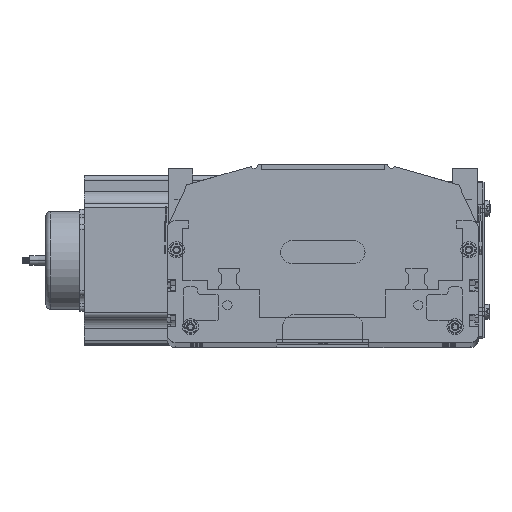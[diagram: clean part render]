
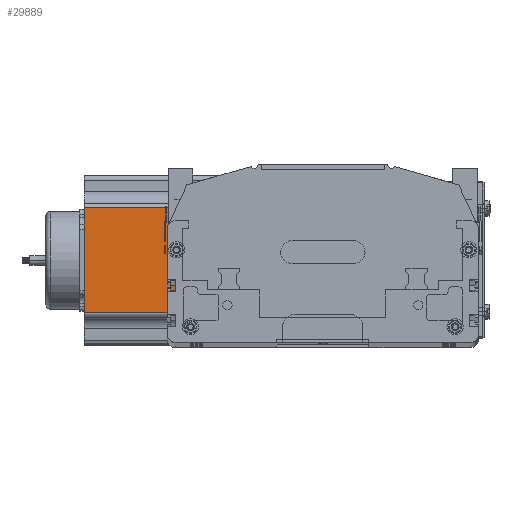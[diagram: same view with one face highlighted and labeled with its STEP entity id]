
A CAD part, top view. The second image highlights one B-rep face of the part: STEP entity #29889.
In plain terms, the highlighted planar face has unit normal (0, 0, 1) as drawn and (0, -1, 0) by its records, which use the part's own axes.
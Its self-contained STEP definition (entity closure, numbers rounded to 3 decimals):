
#29889 = ADVANCED_FACE ( 'NONE', ( #89073 ), #89056, .F. ) ;
#29890 = EDGE_CURVE ( 'NONE', #30476, #30482, #89037, .T. ) ;
#30330 = EDGE_LOOP ( 'NONE', ( #30484, #30404, #30666, #30664 ) ) ;
#30404 = ORIENTED_EDGE ( 'NONE', *, *, #30670, .T. ) ;
#30405 = VERTEX_POINT ( 'NONE', #89794 ) ;
#30476 = VERTEX_POINT ( 'NONE', #89700 ) ;
#30482 = VERTEX_POINT ( 'NONE', #89687 ) ;
#30484 = ORIENTED_EDGE ( 'NONE', *, *, #29890, .T. ) ;
#30662 = VERTEX_POINT ( 'NONE', #90116 ) ;
#30664 = ORIENTED_EDGE ( 'NONE', *, *, #30667, .T. ) ;
#30666 = ORIENTED_EDGE ( 'NONE', *, *, #30669, .F. ) ;
#30667 = EDGE_CURVE ( 'NONE', #30662, #30476, #90123, .T. ) ;
#30669 = EDGE_CURVE ( 'NONE', #30662, #30405, #90031, .T. ) ;
#30670 = EDGE_CURVE ( 'NONE', #30482, #30405, #90021, .T. ) ;
#88938 = AXIS2_PLACEMENT_3D ( 'NONE', #89044, #89033, #89032 ) ;
#89027 = DIRECTION ( 'NONE',  ( 1., 0., 0. ) ) ;
#89028 = VECTOR ( 'NONE', #89027, 1000. ) ;
#89030 = CARTESIAN_POINT ( 'NONE',  ( 0., 0., 0. ) ) ;
#89032 = DIRECTION ( 'NONE',  ( 0., 0., 1. ) ) ;
#89033 = DIRECTION ( 'NONE',  ( 0., 1., 0. ) ) ;
#89037 = LINE ( 'NONE', #89030, #89028 ) ;
#89044 = CARTESIAN_POINT ( 'NONE',  ( 0., 0., 160.5 ) ) ;
#89056 = PLANE ( 'NONE',  #88938 ) ;
#89073 = FACE_OUTER_BOUND ( 'NONE', #30330, .T. ) ;
#89687 = CARTESIAN_POINT ( 'NONE',  ( 88.952, 0., 0. ) ) ;
#89700 = CARTESIAN_POINT ( 'NONE',  ( 21.048, 0., 0. ) ) ;
#89794 = CARTESIAN_POINT ( 'NONE',  ( 88.952, 0., 160.5 ) ) ;
#90018 = DIRECTION ( 'NONE',  ( 0., 0., 1. ) ) ;
#90019 = VECTOR ( 'NONE', #90018, 1000. ) ;
#90020 = CARTESIAN_POINT ( 'NONE',  ( 88.952, 0., 160.5 ) ) ;
#90021 = LINE ( 'NONE', #90020, #90019 ) ;
#90024 = DIRECTION ( 'NONE',  ( 1., 0., 0. ) ) ;
#90025 = VECTOR ( 'NONE', #90024, 1000. ) ;
#90026 = CARTESIAN_POINT ( 'NONE',  ( 0., 0., 160.5 ) ) ;
#90031 = LINE ( 'NONE', #90026, #90025 ) ;
#90036 = DIRECTION ( 'NONE',  ( 0., 0., -1. ) ) ;
#90037 = VECTOR ( 'NONE', #90036, 1000. ) ;
#90116 = CARTESIAN_POINT ( 'NONE',  ( 21.048, 0., 160.5 ) ) ;
#90122 = CARTESIAN_POINT ( 'NONE',  ( 21.048, 0., 160.5 ) ) ;
#90123 = LINE ( 'NONE', #90122, #90037 ) ;
